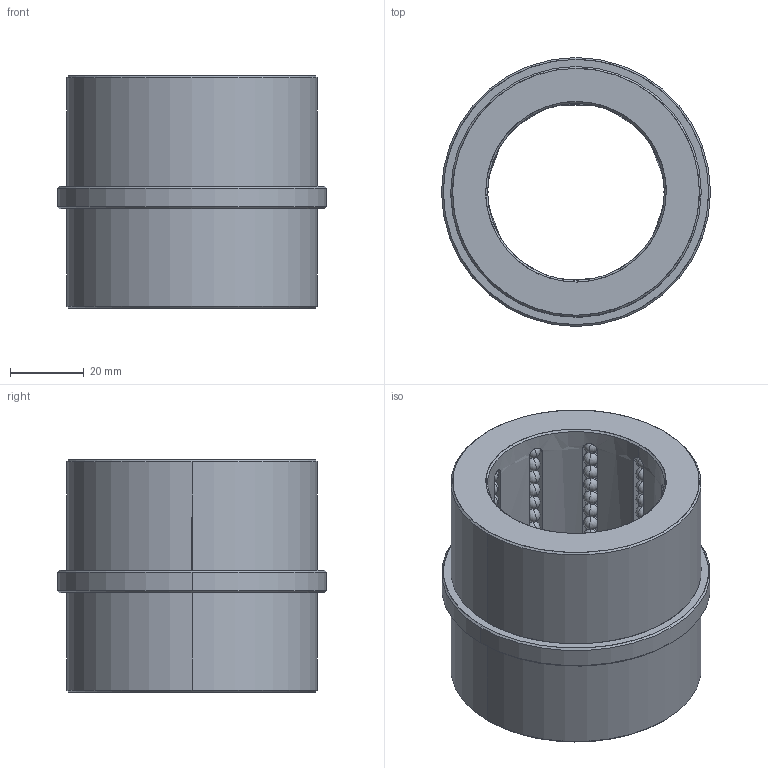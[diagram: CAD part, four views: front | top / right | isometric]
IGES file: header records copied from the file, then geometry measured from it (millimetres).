
Start section: START RECORD GO HERE.
Global section: file name: B8454827.igs; native system: DASSAULT SYSTEMES CATIA V5 R20 - www.3ds.com; preprocessor: CATIA Version 5 Release 20 ; author: Utente; organization: NB04-ASUS; date: 20200419.201343; units: millimetre
Bounding box: 73 x 73 x 63 mm (x, y, z)
Surface area: 38489.4 mm2 (no closed solid volume)
Topology: 0 solids, 0 shells, 606 faces, 2500 edges, 1460 vertices
Faces by surface type: revolution 572, plane 34
